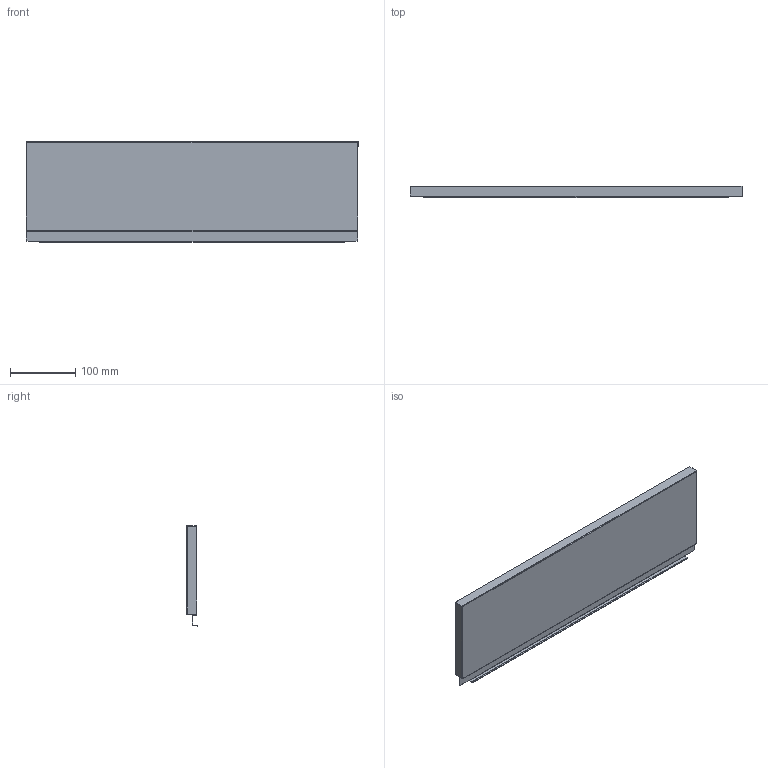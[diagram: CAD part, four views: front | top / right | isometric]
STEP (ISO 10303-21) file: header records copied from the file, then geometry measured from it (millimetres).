
FILE_DESCRIPTION (( 'STEP AP214' ), '1' );
FILE_NAME ('_STRW_H154_KAB_600.step', '2010-08-24T14:40:36', ( 'grass' ), ( '' ), 'SwSTEP 2.0', 'SolidWorks 2009', '' );
FILE_SCHEMA (( 'AUTOMOTIVE_DESIGN' ));
Length unit declared in the file: millimetre
Products named in the file (1): _STRW_H154_KAB_600
Bounding box: 510 x 17 x 154.14 mm (x, y, z)
Volume: 77926 mm3; surface area: 195999.3 mm2
Topology: 1 solids, 1 shells, 76 faces, 214 edges, 140 vertices
Faces by surface type: plane 54, cylinder 22
Entity records: 2472 total; most frequent: CARTESIAN_POINT 431, ORIENTED_EDGE 428, DIRECTION 412, EDGE_CURVE 214, LINE 170, VECTOR 170, VERTEX_POINT 140, AXIS2_PLACEMENT_3D 121
